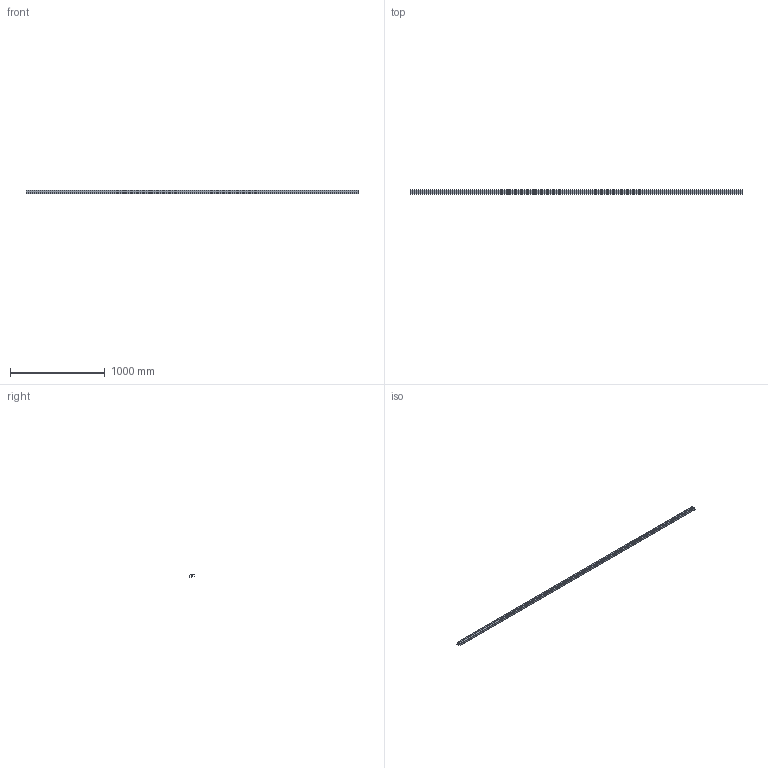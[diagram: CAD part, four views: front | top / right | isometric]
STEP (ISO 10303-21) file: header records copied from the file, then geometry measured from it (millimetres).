
FILE_DESCRIPTION(('STEP AP242'),'1');
FILE_NAME('OPO_51.047.72_volu_schn_3d.stp','2026-02-23T17:26:08',(' '),(' '),'Spatial InterOp 3D',' ',' ');
FILE_SCHEMA(('AP242_MANAGED_MODEL_BASED_3D_ENGINEERING_MIM_LF {1 0 10303 442 1 1 4}'));
Length unit declared in the file: millimetre
Products named in the file (1): 1
Bounding box: 3500 x 48.5 x 33 mm (x, y, z)
Volume: 789799 mm3; surface area: 1174049.3 mm2
Topology: 1 solids, 1 shells, 96 faces, 476 edges, 594 vertices
Faces by surface type: plane 76, cylinder 20
Entity records: 6367 total; most frequent: CARTESIAN_POINT 752, DIRECTION 732, ORIENTED_EDGE 536, LINE 416, VECTOR 416, STYLED_ITEM 304, PRESENTATION_STYLE_ASSIGNMENT 304, COLOUR_RGB 304
